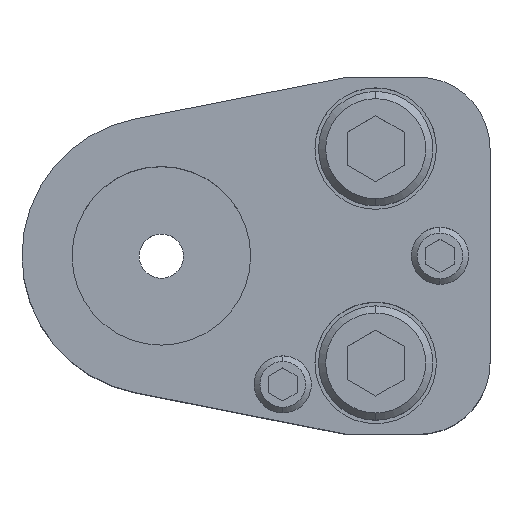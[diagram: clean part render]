
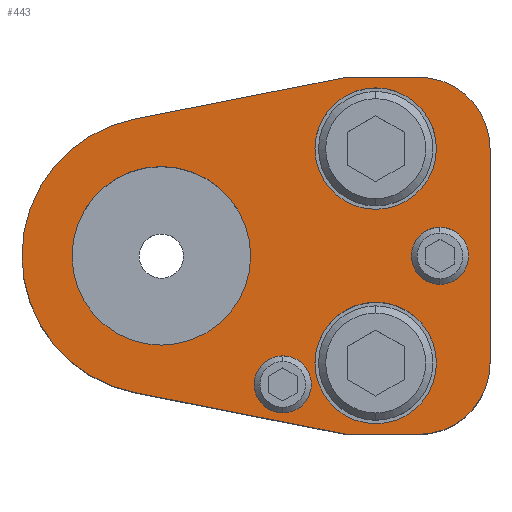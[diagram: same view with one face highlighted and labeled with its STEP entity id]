
A CAD part, top view. The second image highlights one B-rep face of the part: STEP entity #443.
In plain terms, the highlighted planar face has unit normal (0, 0, 1).
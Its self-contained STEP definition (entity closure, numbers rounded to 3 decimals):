
#206=FACE_BOUND('',#803,.T.);
#207=FACE_BOUND('',#804,.T.);
#208=FACE_BOUND('',#805,.T.);
#209=FACE_BOUND('',#806,.T.);
#210=FACE_BOUND('',#807,.T.);
#211=FACE_BOUND('',#808,.T.);
#269=CIRCLE('',#2664,10.);
#271=CIRCLE('',#2668,10.);
#274=CIRCLE('',#2673,4.);
#276=CIRCLE('',#2676,4.);
#278=CIRCLE('',#2679,4.);
#280=CIRCLE('',#2682,4.);
#289=CIRCLE('',#2696,19.5);
#290=CIRCLE('',#2697,8.5);
#291=CIRCLE('',#2698,8.5);
#292=CIRCLE('',#2699,8.5);
#293=CIRCLE('',#2700,8.5);
#294=CIRCLE('',#2701,12.5);
#295=CIRCLE('',#2702,12.5);
#443=ADVANCED_FACE('',(#206,#207,#208,#209,#210,#211),#575,.T.);
#575=PLANE('',#2703);
#803=EDGE_LOOP('',(#1125,#1126,#1127,#1128,#1129,#1130,#1131,#1132));
#804=EDGE_LOOP('',(#1133,#1134));
#805=EDGE_LOOP('',(#1135,#1136));
#806=EDGE_LOOP('',(#1137,#1138));
#807=EDGE_LOOP('',(#1139,#1140));
#808=EDGE_LOOP('',(#1141,#1142));
#1125=ORIENTED_EDGE('',*,*,#1974,.T.);
#1126=ORIENTED_EDGE('',*,*,#1975,.T.);
#1127=ORIENTED_EDGE('',*,*,#1935,.T.);
#1128=ORIENTED_EDGE('',*,*,#1939,.T.);
#1129=ORIENTED_EDGE('',*,*,#1942,.T.);
#1130=ORIENTED_EDGE('',*,*,#1945,.T.);
#1131=ORIENTED_EDGE('',*,*,#1948,.T.);
#1132=ORIENTED_EDGE('',*,*,#1976,.T.);
#1133=ORIENTED_EDGE('',*,*,#1977,.F.);
#1134=ORIENTED_EDGE('',*,*,#1978,.F.);
#1135=ORIENTED_EDGE('',*,*,#1979,.F.);
#1136=ORIENTED_EDGE('',*,*,#1980,.F.);
#1137=ORIENTED_EDGE('',*,*,#1961,.F.);
#1138=ORIENTED_EDGE('',*,*,#1958,.F.);
#1139=ORIENTED_EDGE('',*,*,#1955,.F.);
#1140=ORIENTED_EDGE('',*,*,#1952,.F.);
#1141=ORIENTED_EDGE('',*,*,#1981,.T.);
#1142=ORIENTED_EDGE('',*,*,#1982,.T.);
#1686=VERTEX_POINT('',#3857);
#1687=VERTEX_POINT('',#3859);
#1690=VERTEX_POINT('',#3866);
#1692=VERTEX_POINT('',#3872);
#1694=VERTEX_POINT('',#3878);
#1696=VERTEX_POINT('',#3884);
#1699=VERTEX_POINT('',#3892);
#1700=VERTEX_POINT('',#3894);
#1703=VERTEX_POINT('',#3904);
#1704=VERTEX_POINT('',#3906);
#1713=VERTEX_POINT('',#3937);
#1714=VERTEX_POINT('',#3938);
#1715=VERTEX_POINT('',#3942);
#1716=VERTEX_POINT('',#3943);
#1717=VERTEX_POINT('',#3946);
#1718=VERTEX_POINT('',#3947);
#1719=VERTEX_POINT('',#3950);
#1720=VERTEX_POINT('',#3951);
#1935=EDGE_CURVE('',#1687,#1686,#2269,.T.);
#1939=EDGE_CURVE('',#1686,#1690,#269,.T.);
#1942=EDGE_CURVE('',#1690,#1692,#2274,.T.);
#1945=EDGE_CURVE('',#1692,#1694,#271,.T.);
#1948=EDGE_CURVE('',#1694,#1696,#2278,.T.);
#1952=EDGE_CURVE('',#1699,#1700,#274,.T.);
#1955=EDGE_CURVE('',#1700,#1699,#276,.T.);
#1958=EDGE_CURVE('',#1703,#1704,#278,.T.);
#1961=EDGE_CURVE('',#1704,#1703,#280,.T.);
#1974=EDGE_CURVE('',#1713,#1714,#289,.T.);
#1975=EDGE_CURVE('',#1714,#1687,#2288,.T.);
#1976=EDGE_CURVE('',#1696,#1713,#2289,.T.);
#1977=EDGE_CURVE('',#1715,#1716,#290,.T.);
#1978=EDGE_CURVE('',#1716,#1715,#291,.T.);
#1979=EDGE_CURVE('',#1717,#1718,#292,.T.);
#1980=EDGE_CURVE('',#1718,#1717,#293,.T.);
#1981=EDGE_CURVE('',#1719,#1720,#294,.T.);
#1982=EDGE_CURVE('',#1720,#1719,#295,.T.);
#2269=LINE('',#3858,#2467);
#2274=LINE('',#3873,#2472);
#2278=LINE('',#3885,#2476);
#2288=LINE('',#3939,#2486);
#2289=LINE('',#3940,#2487);
#2467=VECTOR('',#3061,1.);
#2472=VECTOR('',#3074,1.);
#2476=VECTOR('',#3086,1.);
#2486=VECTOR('',#3148,1.);
#2487=VECTOR('',#3149,1.);
#2664=AXIS2_PLACEMENT_3D('',#3867,#3067,#3068);
#2668=AXIS2_PLACEMENT_3D('',#3879,#3079,#3080);
#2673=AXIS2_PLACEMENT_3D('',#3893,#3093,#3094);
#2676=AXIS2_PLACEMENT_3D('',#3898,#3100,#3101);
#2679=AXIS2_PLACEMENT_3D('',#3905,#3107,#3108);
#2682=AXIS2_PLACEMENT_3D('',#3910,#3114,#3115);
#2696=AXIS2_PLACEMENT_3D('',#3936,#3146,#3147);
#2697=AXIS2_PLACEMENT_3D('',#3941,#3150,#3151);
#2698=AXIS2_PLACEMENT_3D('',#3944,#3152,#3153);
#2699=AXIS2_PLACEMENT_3D('',#3945,#3154,#3155);
#2700=AXIS2_PLACEMENT_3D('',#3948,#3156,#3157);
#2701=AXIS2_PLACEMENT_3D('',#3949,#3158,#3159);
#2702=AXIS2_PLACEMENT_3D('',#3952,#3160,#3161);
#2703=AXIS2_PLACEMENT_3D('',#3953,#3162,#3163);
#3061=DIRECTION('',(1.,0.,0.));
#3067=DIRECTION('',(0.,0.,1.));
#3068=DIRECTION('',(-0.707,0.707,0.));
#3074=DIRECTION('',(0.,1.,0.));
#3079=DIRECTION('',(0.,0.,1.));
#3080=DIRECTION('',(-0.707,-0.707,0.));
#3086=DIRECTION('',(-1.,0.,0.));
#3093=DIRECTION('',(0.,0.,1.));
#3094=DIRECTION('',(-1.,0.,0.));
#3100=DIRECTION('',(0.,0.,1.));
#3101=DIRECTION('',(1.,0.,0.));
#3107=DIRECTION('',(0.,0.,1.));
#3108=DIRECTION('',(-1.,0.,0.));
#3114=DIRECTION('',(0.,0.,1.));
#3115=DIRECTION('',(1.,0.,0.));
#3146=DIRECTION('',(0.,0.,1.));
#3147=DIRECTION('',(0.,1.,0.));
#3148=DIRECTION('',(0.981,-0.193,0.));
#3149=DIRECTION('',(-0.981,-0.193,0.));
#3150=DIRECTION('',(0.,0.,1.));
#3151=DIRECTION('',(1.,0.,0.));
#3152=DIRECTION('',(0.,0.,1.));
#3153=DIRECTION('',(-1.,0.,0.));
#3154=DIRECTION('',(0.,0.,1.));
#3155=DIRECTION('',(1.,0.,0.));
#3156=DIRECTION('',(0.,0.,1.));
#3157=DIRECTION('',(-1.,0.,0.));
#3158=DIRECTION('',(0.,0.,-1.));
#3159=DIRECTION('',(-1.,0.,0.));
#3160=DIRECTION('',(0.,0.,-1.));
#3161=DIRECTION('',(1.,0.,0.));
#3162=DIRECTION('',(0.,0.,1.));
#3163=DIRECTION('',(0.981,0.193,0.));
#3857=CARTESIAN_POINT('',(36.,-25.,35.));
#3858=CARTESIAN_POINT('',(26.,-25.,35.));
#3859=CARTESIAN_POINT('',(26.,-25.,35.));
#3866=CARTESIAN_POINT('',(46.,-15.,35.));
#3867=CARTESIAN_POINT('',(36.,-15.,35.));
#3872=CARTESIAN_POINT('',(46.,15.,35.));
#3873=CARTESIAN_POINT('',(46.,-15.,35.));
#3878=CARTESIAN_POINT('',(36.,25.,35.));
#3879=CARTESIAN_POINT('',(36.,15.,35.));
#3884=CARTESIAN_POINT('',(26.,25.,35.));
#3885=CARTESIAN_POINT('',(26.,25.,35.));
#3892=CARTESIAN_POINT('',(17.,-22.,35.));
#3893=CARTESIAN_POINT('',(17.,-18.,35.));
#3894=CARTESIAN_POINT('',(17.,-14.,35.));
#3898=CARTESIAN_POINT('',(17.,-18.,35.));
#3904=CARTESIAN_POINT('',(39.,-4.,35.));
#3905=CARTESIAN_POINT('',(39.,0.,35.));
#3906=CARTESIAN_POINT('',(39.,4.,35.));
#3910=CARTESIAN_POINT('',(39.,0.,35.));
#3936=CARTESIAN_POINT('',(0.,0.,35.));
#3937=CARTESIAN_POINT('',(-3.771,19.132,35.));
#3938=CARTESIAN_POINT('',(-3.771,-19.132,35.));
#3939=CARTESIAN_POINT('',(26.,-25.,35.));
#3940=CARTESIAN_POINT('',(26.,25.,35.));
#3941=CARTESIAN_POINT('',(30.,-15.,35.));
#3942=CARTESIAN_POINT('',(30.,-6.5,35.));
#3943=CARTESIAN_POINT('',(30.,-23.5,35.));
#3944=CARTESIAN_POINT('',(30.,-15.,35.));
#3945=CARTESIAN_POINT('',(30.,15.,35.));
#3946=CARTESIAN_POINT('',(30.,23.5,35.));
#3947=CARTESIAN_POINT('',(30.,6.5,35.));
#3948=CARTESIAN_POINT('',(30.,15.,35.));
#3949=CARTESIAN_POINT('',(0.,0.,35.));
#3950=CARTESIAN_POINT('',(0.,12.5,35.));
#3951=CARTESIAN_POINT('',(0.,-12.5,35.));
#3952=CARTESIAN_POINT('',(0.,0.,35.));
#3953=CARTESIAN_POINT('',(-3.771,19.132,35.));
